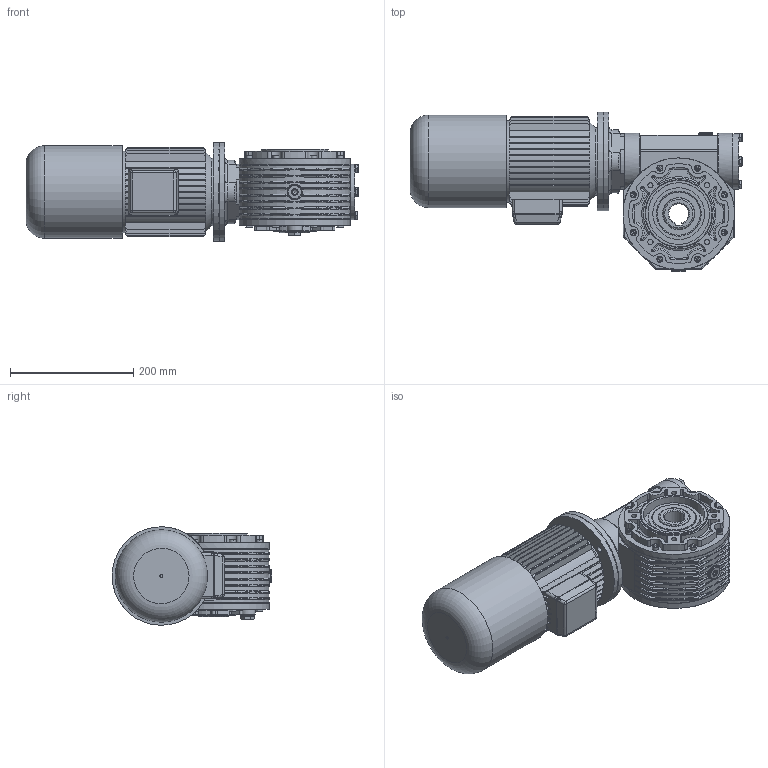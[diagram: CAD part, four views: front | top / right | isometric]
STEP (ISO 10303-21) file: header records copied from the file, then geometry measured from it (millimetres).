
FILE_DESCRIPTION((''),'2;1');
FILE_NAME('Y:\Archivi Inventor\Prog_01\GRAND_40\figurini\MRV40_SITO\71_AUTOFRENANTE\MRV40_FP1_71_B5.stp','2013-02-06T11:40:44',('tech3'),(''),'Autodesk Inventor 2013','Autodesk Inventor 2013','');
FILE_SCHEMA(('AUTOMOTIVE_DESIGN { 1 0 10303 214 1 1 1 1 }'));
Length unit declared in the file: millimetre
Products named in the file (20): MRV40_71_B5; MRV40 figurino; 0104001.A0 figurino; 0104009.A0 figurino; 0104028; 0104029; fig_mozzo corona. MRV-RV40cusc_conici; PARAOLIO 35x47x8; PARAOLIO 50x70x10; Guarnizione 3_8 GAS; Tappo 3_8 GAS_esagn_incsst; UNI 5931  M 8 x  25; FIG_0104002; DIN EN ISO 4762 M6 x 20; Tappo3_8 GAS; UNI 5739  M6 x 20; FIG_0104004; UNI 5739 M8 x 20; 0104006; motori B5 brake 71
Assembly tree (45 placements, depth 3):
  MRV40_71_B5
    MRV40 figurino
      0104001.A0 figurino
      0104009.A0 figurino
      0104028  x2
      0104029  x2
      fig_mozzo corona. MRV-RV40cusc_conici
      PARAOLIO 35x47x8
      PARAOLIO 50x70x10  x2
      Guarnizione 3_8 GAS  x3
      Tappo 3_8 GAS_esagn_incsst  x2
      UNI 5931  M 8 x  25  x4
      FIG_0104002
      DIN EN ISO 4762 M6 x 20  x8
      Tappo3_8 GAS
      UNI 5739  M6 x 20  x8
      FIG_0104004
      UNI 5739 M8 x 20  x4
    0104006
    motori B5 brake 71
Bounding box: 539.1 x 259.5 x 160 mm (x, y, z)
Volume: 6821705.7 mm3; surface area: 903887.6 mm2
Topology: 45 solids, 45 shells, 2004 faces, 4826 edges, 2906 vertices
Faces by surface type: plane 856, cylinder 649, torus 155, cone 150, bspline 142, sphere 52
Full cylindrical faces by diameter (mm): 2 x2, 4.917 x16, 5 x1, 6 x16, 6.5 x32, 8 x10, 8.376 x4, 8.5 x12, 8.75 x4, 8.88 x8, 9 x4, 9.5 x4, 10 x8, 11.63 x4, 13 x4, 13.046 x1, 14 x1, 14.95 x3, 16.3 x3, 16.5 x2, 22 x6, 25 x2, 39.605 x1, 43.5 x1, 47 x2, 50 x1, 55 x1, 56.381 x2, 62 x3, 65 x2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
Entity records: 54563 total; most frequent: CARTESIAN_POINT 16466, DIRECTION 7978, ORIENTED_EDGE 7382, EDGE_CURVE 3691, AXIS2_PLACEMENT_3D 3181, VERTEX_POINT 2343, EDGE_LOOP 1940, CIRCLE 1646
